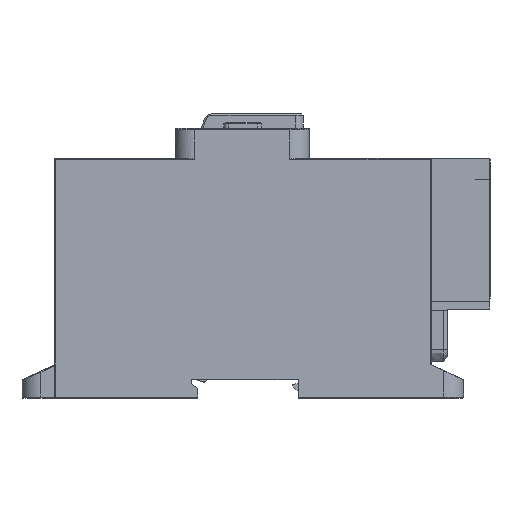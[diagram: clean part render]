
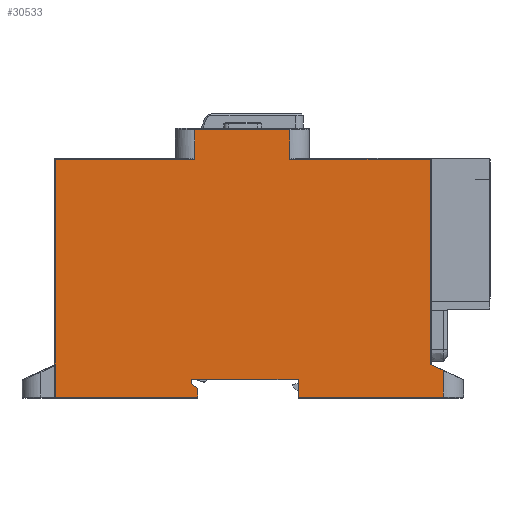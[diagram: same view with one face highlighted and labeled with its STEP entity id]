
A CAD part, left-side view. The second image highlights one B-rep face of the part: STEP entity #30533.
In plain terms, the highlighted planar face has unit normal (-1, 0, 0).
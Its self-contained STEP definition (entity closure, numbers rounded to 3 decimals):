
#451=DIRECTION('',(0.,-1.,0.));
#452=VECTOR('',#451,47.2);
#453=CARTESIAN_POINT('',(0.,144.2,0.3));
#454=LINE('',#453,#452);
#480=DIRECTION('',(0.,0.005,1.));
#481=VECTOR('',#480,5.987);
#482=CARTESIAN_POINT('',(0.,63.62,
0.3));
#483=LINE('',#482,#481);
#484=DIRECTION('',(0.,1.,0.));
#485=VECTOR('',#484,35.497);
#486=CARTESIAN_POINT('',(0.,63.652,6.287));
#487=LINE('',#486,#485);
#488=DIRECTION('',(0.,0.005,-1.));
#489=VECTOR('',#488,1.595);
#490=CARTESIAN_POINT('',(0.,99.148,6.3));
#491=LINE('',#490,#489);
#492=DIRECTION('',(0.,-0.819,-0.574));
#493=VECTOR('',#492,2.633);
#494=CARTESIAN_POINT('',(0.,99.157,4.705));
#495=LINE('',#494,#493);
#496=DIRECTION('',(0.,0.,-1.));
#497=VECTOR('',#496,2.895);
#498=CARTESIAN_POINT('',(0.,97.,3.195));
#499=LINE('',#498,#497);
#500=DIRECTION('',(0.,0.,1.));
#501=VECTOR('',#500,9.801);
#502=CARTESIAN_POINT('',(0.,97.977,79.199));
#503=LINE('',#502,#501);
#504=DIRECTION('',(0.,-1.,0.));
#505=VECTOR('',#504,31.599);
#506=CARTESIAN_POINT('',(0.,97.977,89.));
#507=LINE('',#506,#505);
#508=DIRECTION('',(0.,0.013,-1.));
#509=VECTOR('',#508,9.802);
#510=CARTESIAN_POINT('',(0.,66.378,89.));
#511=LINE('',#510,#509);
#512=DIRECTION('',(0.,-0.907,-0.42));
#513=VECTOR('',#512,4.738);
#514=CARTESIAN_POINT('',(0.,19.8,11.139));
#515=LINE('',#514,#513);
#516=DIRECTION('',(0.,-1.,0.));
#517=VECTOR('',#516,48.12);
#518=CARTESIAN_POINT('',(0.,63.62,
0.3));
#519=LINE('',#518,#517);
#536=CARTESIAN_POINT('',(0.,63.652,6.287));
#1046=DIRECTION('',(0.,0.,1.));
#1047=VECTOR('',#1046,8.848);
#1048=CARTESIAN_POINT('',(0.,15.5,0.3));
#1049=LINE('',#1048,#1047);
#1069=CARTESIAN_POINT('',(0.,15.5,9.148));
#6402=DIRECTION('',(0.,0.,1.));
#6403=VECTOR('',#6402,68.06);
#6404=CARTESIAN_POINT('',(0.,19.8,11.139));
#6405=LINE('',#6404,#6403);
#6414=DIRECTION('',(0.,1.,0.));
#6415=VECTOR('',#6414,46.704);
#6416=CARTESIAN_POINT('',(0.,19.8,79.199));
#6417=LINE('',#6416,#6415);
#6479=DIRECTION('',(0.,1.,0.));
#6480=VECTOR('',#6479,46.223);
#6481=CARTESIAN_POINT('',(0.,97.977,79.199));
#6482=LINE('',#6481,#6480);
#7558=CARTESIAN_POINT('',(0.,99.148,6.3));
#16841=DIRECTION('',(0.,0.,-1.));
#16842=VECTOR('',#16841,78.899);
#16843=CARTESIAN_POINT('',(0.,144.2,79.199));
#16844=LINE('',#16843,#16842);
#24047=VERTEX_POINT('',#1069);
#24048=CARTESIAN_POINT('',(0.,19.8,11.139));
#24049=VERTEX_POINT('',#24048);
#26035=VERTEX_POINT('',#536);
#26036=CARTESIAN_POINT('',(0.,63.62,
0.3));
#26037=VERTEX_POINT('',#26036);
#26222=VERTEX_POINT('',#7558);
#26237=CARTESIAN_POINT('',(0.,99.157,
4.705));
#26238=VERTEX_POINT('',#26237);
#26245=CARTESIAN_POINT('',(0.,97.,3.195));
#26246=VERTEX_POINT('',#26245);
#26271=CARTESIAN_POINT('',(0.,97.,0.3));
#26272=VERTEX_POINT('',#26271);
#28325=CARTESIAN_POINT('',(0.,144.2,0.3));
#28326=VERTEX_POINT('',#28325);
#28327=CARTESIAN_POINT('',(0.,144.2,79.199));
#28328=VERTEX_POINT('',#28327);
#28770=CARTESIAN_POINT('',(0.,97.977,89.));
#28771=VERTEX_POINT('',#28770);
#28772=CARTESIAN_POINT('',(0.,97.977,79.199));
#28773=VERTEX_POINT('',#28772);
#28774=CARTESIAN_POINT('',(0.,15.5,0.3));
#28775=VERTEX_POINT('',#28774);
#28776=CARTESIAN_POINT('',(0.,66.378,
89.));
#28777=VERTEX_POINT('',#28776);
#28778=CARTESIAN_POINT('',(0.,66.504,79.199));
#28779=VERTEX_POINT('',#28778);
#28780=CARTESIAN_POINT('',(0.,19.8,79.199));
#28781=VERTEX_POINT('',#28780);
#30496=CARTESIAN_POINT('',(0.,156.,0.));
#30497=DIRECTION('',(-1.,0.,0.));
#30498=DIRECTION('',(0.,-1.,0.));
#30499=AXIS2_PLACEMENT_3D('',#30496,#30497,#30498);
#30500=PLANE('',#30499);
#30502=ORIENTED_EDGE('',*,*,#30501,.F.);
#30504=ORIENTED_EDGE('',*,*,#30503,.T.);
#30506=ORIENTED_EDGE('',*,*,#30505,.T.);
#30508=ORIENTED_EDGE('',*,*,#30507,.T.);
#30510=ORIENTED_EDGE('',*,*,#30509,.T.);
#30511=ORIENTED_EDGE('',*,*,#30479,.T.);
#30512=ORIENTED_EDGE('',*,*,#30468,.F.);
#30514=ORIENTED_EDGE('',*,*,#30513,.F.);
#30516=ORIENTED_EDGE('',*,*,#30515,.F.);
#30518=ORIENTED_EDGE('',*,*,#30517,.T.);
#30520=ORIENTED_EDGE('',*,*,#30519,.T.);
#30522=ORIENTED_EDGE('',*,*,#30521,.T.);
#30524=ORIENTED_EDGE('',*,*,#30523,.F.);
#30526=ORIENTED_EDGE('',*,*,#30525,.F.);
#30528=ORIENTED_EDGE('',*,*,#30527,.T.);
#30530=ORIENTED_EDGE('',*,*,#30529,.F.);
#30531=EDGE_LOOP('',(#30502,#30504,#30506,#30508,#30510,#30511,#30512,#30514,
#30516,#30518,#30520,#30522,#30524,#30526,#30528,#30530));
#30532=FACE_OUTER_BOUND('',#30531,.F.);
#30533=ADVANCED_FACE('',(#30532),#30500,.T.);
#30468=EDGE_CURVE('',#28326,#26272,#454,.T.);
#30479=EDGE_CURVE('',#26246,#26272,#499,.T.);
#30501=EDGE_CURVE('',#26037,#28775,#519,.T.);
#30503=EDGE_CURVE('',#26037,#26035,#483,.T.);
#30505=EDGE_CURVE('',#26035,#26222,#487,.T.);
#30507=EDGE_CURVE('',#26222,#26238,#491,.T.);
#30509=EDGE_CURVE('',#26238,#26246,#495,.T.);
#30513=EDGE_CURVE('',#28328,#28326,#16844,.T.);
#30515=EDGE_CURVE('',#28773,#28328,#6482,.T.);
#30517=EDGE_CURVE('',#28773,#28771,#503,.T.);
#30519=EDGE_CURVE('',#28771,#28777,#507,.T.);
#30521=EDGE_CURVE('',#28777,#28779,#511,.T.);
#30523=EDGE_CURVE('',#28781,#28779,#6417,.T.);
#30525=EDGE_CURVE('',#24049,#28781,#6405,.T.);
#30527=EDGE_CURVE('',#24049,#24047,#515,.T.);
#30529=EDGE_CURVE('',#28775,#24047,#1049,.T.);
